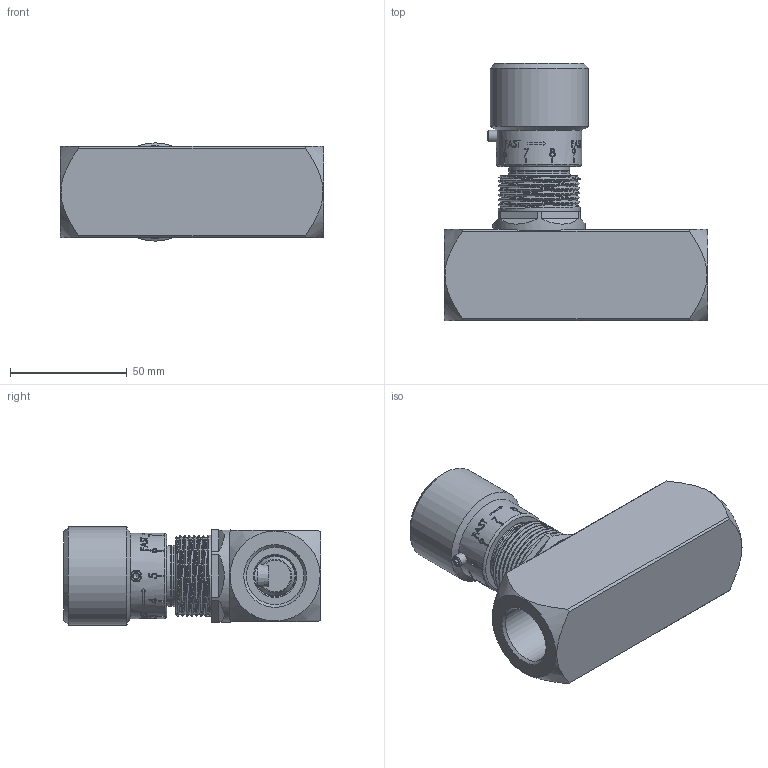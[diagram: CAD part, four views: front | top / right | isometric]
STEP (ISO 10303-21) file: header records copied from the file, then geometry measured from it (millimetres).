
FILE_DESCRIPTION (( 'STEP AP214' ), '1' );
FILE_NAME ('STUF340.STEP', '2020-06-15T09:16:59', ( '' ), ( '' ), 'SwSTEP 2.0', 'SolidWorks 2017', '' );
FILE_SCHEMA (( 'AUTOMOTIVE_DESIGN' ));
Length unit declared in the file: millimetre
Products named in the file (1): STUF340
Bounding box: 112.5 x 110.04 x 42 mm (x, y, z)
Volume: 198988.8 mm3; surface area: 62374.5 mm2
Topology: 10 solids, 10 shells, 682 faces, 1723 edges, 1110 vertices
Faces by surface type: plane 301, bspline 171, cylinder 132, cone 56, torus 21, sphere 1
Full cylindrical faces by diameter (mm): 2.5 x1, 4.2 x2, 5 x2, 5.3 x1, 7.5 x4, 7.8 x1, 9.5 x1, 10.4 x1, 12 x3, 12.5 x2, 12.917 x1, 13 x1, 14 x1, 16 x6, 17 x1, 17.5 x1, 19.7 x1, 20 x1, 21 x1, 22 x1, 23 x2, 24.5 x2, 26 x8, 26.441 x1, 26.7 x1, 27 x1, 28 x2, 28.5 x1, 35 x6, 35.2 x1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
Entity records: 48681 total; most frequent: CARTESIAN_POINT 26955, ORIENTED_EDGE 3098, DIRECTION 2363, EDGE_CURVE 1549, VERTEX_POINT 1067, AXIS2_PLACEMENT_3D 930, EDGE_LOOP 874, FACE_OUTER_BOUND 756
